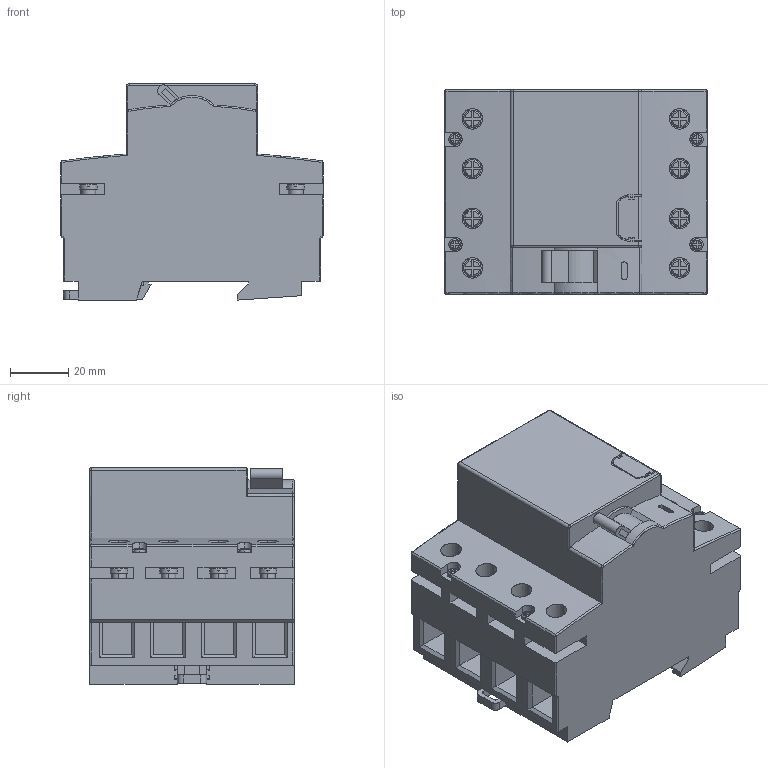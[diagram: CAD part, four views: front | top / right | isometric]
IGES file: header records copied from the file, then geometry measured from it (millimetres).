
Start section: SolidWorks IGES file using analytic representation for surfaces
Global section: file name: Q:\GROUPS\BR_SC_JGS_WA_TECNICO\ENG\Usuarios\Rodrigob\conversão\Linha Predial\Interruptores diferenciais-residuais RDW\Projetecnica\RDW_4\RDW_4.IGS; native system: SolidWorks 2009; preprocessor: SolidWorks 2009; author: rodrigob; date: 100128.125359; units: millimetre
Bounding box: 90 x 70 x 74 mm (x, y, z)
Surface area: 47481.4 mm2 (no closed solid volume)
Topology: 0 solids, 0 shells, 608 faces, 5610 edges, 5608 vertices
Faces by surface type: bspline 456, revolution 152
